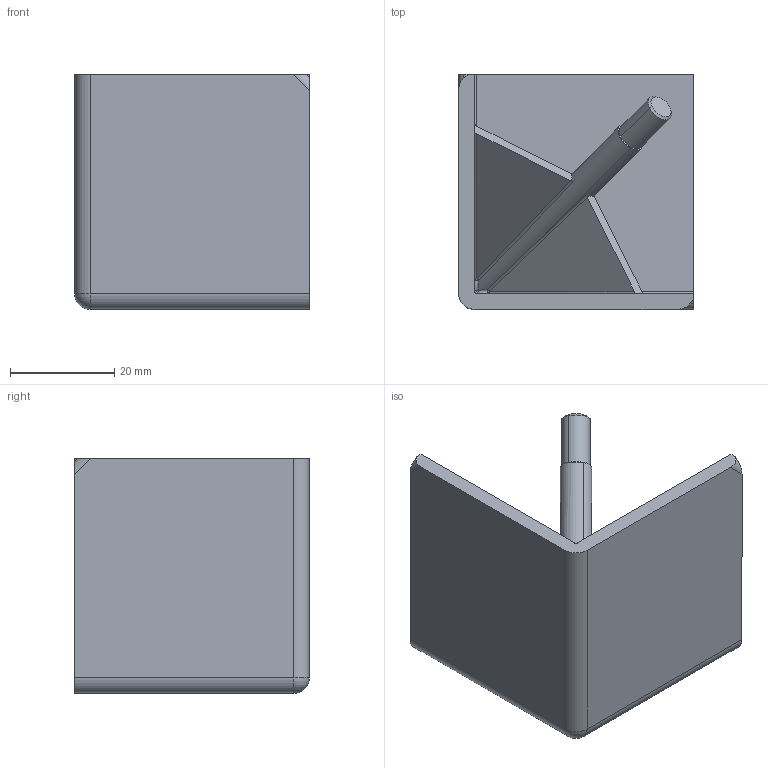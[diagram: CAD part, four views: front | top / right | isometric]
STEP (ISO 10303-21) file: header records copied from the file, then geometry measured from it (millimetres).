
FILE_DESCRIPTION (( 'STEP AP203' ), '1' );
FILE_NAME ('321187_Abdeckkappe für Eckwinkel 45 Eckform.step', '2018-11-27T10:51:35', ( '' ), ( '' ), 'SwSTEP 2.0', 'SolidWorks 2017', '' );
FILE_SCHEMA (( 'CONFIG_CONTROL_DESIGN' ));
Length unit declared in the file: millimetre
Products named in the file (1): 321187_Abdeckkappe f黵 Eckwinkel 45 Eckform
Bounding box: 45 x 45 x 45 mm (x, y, z)
Volume: 21087.6 mm3; surface area: 14762.8 mm2
Topology: 1 solids, 1 shells, 67 faces, 172 edges, 104 vertices
Faces by surface type: plane 23, cylinder 19, bspline 12, sphere 11, cone 2
Entity records: 2475 total; most frequent: CARTESIAN_POINT 985, ORIENTED_EDGE 330, DIRECTION 248, EDGE_CURVE 165, VERTEX_POINT 101, AXIS2_PLACEMENT_3D 91, EDGE_LOOP 68, ADVANCED_FACE 67
